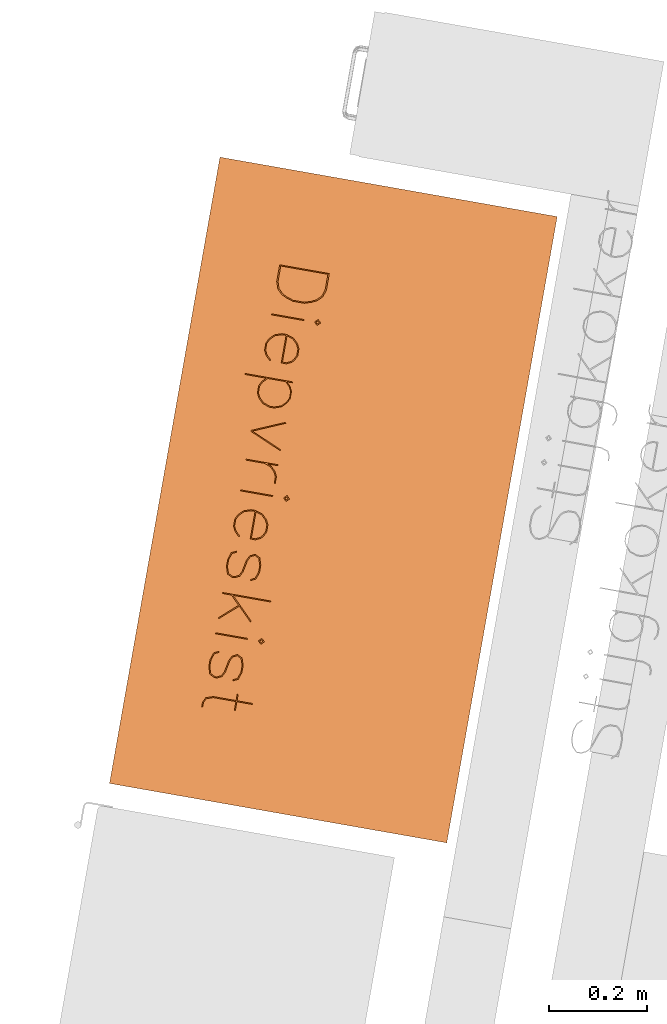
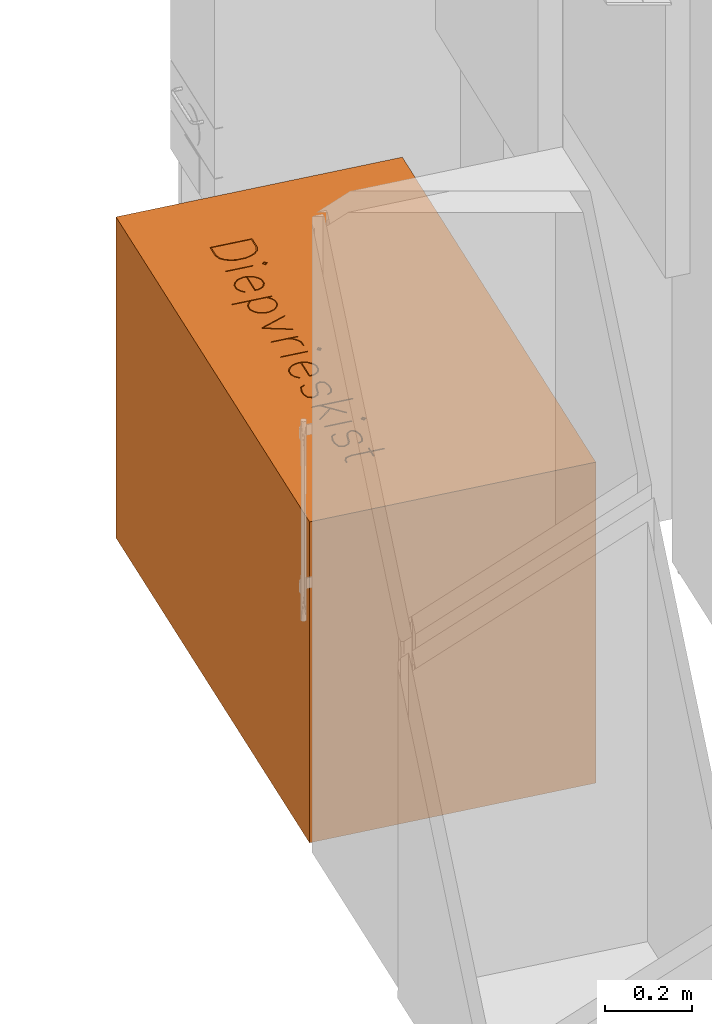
# One storey, part 40 of 43: 1 proxy.
"""IFC2X3 building model written with IfcOpenShell, lengths in metres."""

from ifc_helpers import new_model, entity, si_unit, converted_unit, derived_unit, direction, frame, origin, place, context, subcontext, project, spatial, face_set, surface_model, source, transform, mapped, material, type_object, type_shapes, element, save


model = new_model("IFC2X3")

# Units and contexts
model_context = context("Model", 3, precision=1e-05, world=origin(), true_north=direction((6.12303176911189e-17, 1.0)))
body_context = subcontext(model_context, "Body", "Model", "MODEL_VIEW")
ifc_project = project(units=[si_unit("LENGTHUNIT", "METRE"), si_unit("AREAUNIT", "SQUARE_METRE"), si_unit("VOLUMEUNIT", "CUBIC_METRE"), converted_unit("PLANEANGLEUNIT", "DEGREE", entity("IfcRatioMeasure", 0.0174532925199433), si_unit("PLANEANGLEUNIT", "RADIAN"), dimensions=[0, 0, 0, 0, 0, 0, 0]), si_unit("MASSUNIT", "GRAM", prefix="KILO"), derived_unit("MASSDENSITYUNIT", [(si_unit("MASSUNIT", "GRAM", prefix="KILO"), 1), (si_unit("LENGTHUNIT", "METRE"), -3)]), derived_unit("MOMENTOFINERTIAUNIT", [(si_unit("LENGTHUNIT", "METRE"), 4)]), si_unit("TIMEUNIT", "SECOND"), si_unit("FREQUENCYUNIT", "HERTZ"), si_unit("THERMODYNAMICTEMPERATUREUNIT", "DEGREE_CELSIUS"), derived_unit("THERMALTRANSMITTANCEUNIT", [(si_unit("MASSUNIT", "GRAM", prefix="KILO"), 1), (si_unit("THERMODYNAMICTEMPERATUREUNIT", "KELVIN"), -1), (si_unit("TIMEUNIT", "SECOND"), -3)]), derived_unit("VOLUMETRICFLOWRATEUNIT", [(si_unit("LENGTHUNIT", "METRE"), 3), (si_unit("TIMEUNIT", "SECOND"), -1)]), si_unit("ELECTRICCURRENTUNIT", "AMPERE"), si_unit("ELECTRICVOLTAGEUNIT", "VOLT"), si_unit("POWERUNIT", "WATT"), si_unit("FORCEUNIT", "NEWTON", prefix="KILO"), si_unit("ILLUMINANCEUNIT", "LUX"), si_unit("LUMINOUSFLUXUNIT", "LUMEN"), si_unit("LUMINOUSINTENSITYUNIT", "CANDELA"), derived_unit("USERDEFINED", [(si_unit("MASSUNIT", "GRAM", prefix="KILO"), -1), (si_unit("LENGTHUNIT", "METRE"), -2), (si_unit("TIMEUNIT", "SECOND"), 3), (si_unit("LUMINOUSFLUXUNIT", "LUMEN"), 1)]), derived_unit("LINEARVELOCITYUNIT", [(si_unit("LENGTHUNIT", "METRE"), 1), (si_unit("TIMEUNIT", "SECOND"), -1)]), si_unit("PRESSUREUNIT", "PASCAL"), derived_unit("USERDEFINED", [(si_unit("LENGTHUNIT", "METRE"), -2), (si_unit("MASSUNIT", "GRAM", prefix="KILO"), 1), (si_unit("TIMEUNIT", "SECOND"), -2)]), derived_unit("LINEARFORCEUNIT", [(si_unit("MASSUNIT", "GRAM", prefix="KILO"), 1), (si_unit("LENGTHUNIT", "METRE"), 1), (si_unit("TIMEUNIT", "SECOND"), -2), (si_unit("LENGTHUNIT", "METRE"), -1)]), derived_unit("PLANARFORCEUNIT", [(si_unit("MASSUNIT", "GRAM", prefix="KILO"), 1), (si_unit("LENGTHUNIT", "METRE"), 1), (si_unit("TIMEUNIT", "SECOND"), -2), (si_unit("LENGTHUNIT", "METRE"), -2)])], contexts=[model_context])

# Site, building, storey
site_placement = place(None, origin())
site = spatial("IfcSite", under=ifc_project, at=site_placement, Name="Default", CompositionType="ELEMENT")
building_placement = place(site_placement, origin())
building = spatial("IfcBuilding", under=site, at=building_placement, CompositionType="ELEMENT")
storey_placement = place(building_placement, frame((0.0, 0.0, 3.0)))
storey = spatial("IfcBuildingStorey", under=building, at=storey_placement, Name="01 OG", CompositionType="ELEMENT", Elevation=3.0)

# Proxy
ifc_material = material(Name="dh_Stellfläche dh")
building_element_proxy_type = type_object("IfcBuildingElementProxyType", Name="dh_Gerät_Stellfläche Bestand:Laborgerät", PredefinedType="NOTDEFINED", material=ifc_material)
shared_shape = source(origin(), body_context, "Body", "SurfaceModel", [
    surface_model("IfcFaceBasedSurfaceModel", [(-0.390570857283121, -0.516984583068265, 0.905000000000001), (-0.385655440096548, -0.502263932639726, 0.905000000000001), (-0.385655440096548, -0.477917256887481, 0.905000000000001), (-0.390570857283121, -0.463222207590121, 0.905000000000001), (-0.395307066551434, -0.453263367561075, 0.905000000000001), (-0.40526590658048, -0.443381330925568, 0.905000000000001), (-0.41993535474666, -0.438414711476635, 0.905000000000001), (-0.454471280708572, -0.438414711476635, 0.905000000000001), (-0.454471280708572, -0.541638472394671, 0.905000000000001), (-0.41993535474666, -0.541638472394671, 0.905000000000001), (-0.40526590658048, -0.536799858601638, 0.905000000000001), (-0.395307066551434, -0.526917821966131, 0.905000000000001), (-0.392439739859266, -0.515755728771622, 0.905000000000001), (-0.397227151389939, -0.524997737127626, 0.905000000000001), (-0.406315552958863, -0.534290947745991, 0.905000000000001), (-0.42019136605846, -0.538873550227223, 0.905000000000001), (-0.452346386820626, -0.538873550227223, 0.905000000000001), (-0.452346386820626, -0.441128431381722, 0.905000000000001), (-0.42019136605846, -0.441128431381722, 0.905000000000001), (-0.406315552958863, -0.445711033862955, 0.905000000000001), (-0.397227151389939, -0.455004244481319, 0.905000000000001), (-0.392439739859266, -0.464246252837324, 0.905000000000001), (-0.387857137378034, -0.478250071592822, 0.905000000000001), (-0.387857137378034, -0.501751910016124, 0.905000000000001), (-0.352885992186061, -0.539999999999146, 0.905000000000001), (-0.350761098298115, -0.539999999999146, 0.905000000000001), (-0.350761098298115, -0.473334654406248, 0.905000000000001), (-0.352885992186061, -0.473334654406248, 0.905000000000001), (-0.257649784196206, -0.527199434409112, 0.905000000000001), (-0.259313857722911, -0.525535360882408, 0.905000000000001), (-0.268683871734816, -0.534982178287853, 0.905000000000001), (-0.27777227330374, -0.539564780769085, 0.905000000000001), (-0.291520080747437, -0.539564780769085, 0.905000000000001), (-0.300634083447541, -0.534982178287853, 0.905000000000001), (-0.309927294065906, -0.525791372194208, 0.905000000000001), (-0.314509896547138, -0.511889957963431, 0.905000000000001), (-0.314509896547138, -0.503646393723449, 0.905000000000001), (-0.257393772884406, -0.503646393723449, 0.905000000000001), (-0.257393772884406, -0.49271471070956, 0.905000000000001), (-0.262309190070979, -0.482730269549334, 0.905000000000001), (-0.267352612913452, -0.47768684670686, 0.905000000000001), (-0.277260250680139, -0.472822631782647, 0.905000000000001), (-0.292057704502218, -0.472822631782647, 0.905000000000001), (-0.302016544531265, -0.47768684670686, 0.905000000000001), (-0.311770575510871, -0.487671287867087, 0.905000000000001), (-0.316685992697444, -0.502366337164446, 0.905000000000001), (-0.316685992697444, -0.512222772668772, 0.905000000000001), (-0.311770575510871, -0.526917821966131, 0.905000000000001), (-0.302016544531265, -0.536851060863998, 0.905000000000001), (-0.292057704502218, -0.541638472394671, 0.905000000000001), (-0.277260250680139, -0.541638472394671, 0.905000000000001), (-0.267352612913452, -0.536851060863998, 0.905000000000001), (-0.314100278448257, -0.501444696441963, 0.905000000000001), (-0.309927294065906, -0.48874653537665, 0.905000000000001), (-0.300634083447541, -0.479658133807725, 0.905000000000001), (-0.291520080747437, -0.474998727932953, 0.905000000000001), (-0.27777227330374, -0.474998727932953, 0.905000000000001), (-0.268683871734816, -0.479658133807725, 0.905000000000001), (-0.264178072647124, -0.484163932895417, 0.905000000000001), (-0.259595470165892, -0.493277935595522, 0.905000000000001), (-0.259595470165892, -0.501444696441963, 0.905000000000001), (-0.22132177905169, -0.47376987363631, 0.905000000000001), (-0.223446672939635, -0.47376987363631, 0.905000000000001), (-0.223446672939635, -0.572769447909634, 0.905000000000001), (-0.22132177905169, -0.572769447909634, 0.905000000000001), (-0.22132177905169, -0.528300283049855, 0.905000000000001), (-0.213539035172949, -0.536211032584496, 0.905000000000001), (-0.203580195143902, -0.540972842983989, 0.905000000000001), (-0.188782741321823, -0.540972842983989, 0.905000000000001), (-0.178875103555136, -0.536211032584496, 0.905000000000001), (-0.16904426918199, -0.52632899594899, 0.905000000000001), (-0.164128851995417, -0.511787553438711, 0.905000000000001), (-0.164128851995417, -0.502033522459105, 0.905000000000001), (-0.16904426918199, -0.487492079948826, 0.905000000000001), (-0.178875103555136, -0.4776356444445, 0.905000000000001), (-0.188782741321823, -0.472822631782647, 0.905000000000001), (-0.203580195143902, -0.472822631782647, 0.905000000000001), (-0.213539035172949, -0.47761004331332, 0.905000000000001), (-0.22132177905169, -0.485443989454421, 0.905000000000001), (-0.22132177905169, -0.488004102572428, 0.905000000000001), (-0.212156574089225, -0.479043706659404, 0.905000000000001), (-0.203042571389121, -0.474384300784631, 0.905000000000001), (-0.189294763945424, -0.474384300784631, 0.905000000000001), (-0.1802063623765, -0.479043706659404, 0.905000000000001), (-0.170989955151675, -0.488132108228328, 0.905000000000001), (-0.166330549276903, -0.502007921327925, 0.905000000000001), (-0.166330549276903, -0.51124992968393, 0.905000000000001), (-0.170989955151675, -0.525125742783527, 0.905000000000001), (-0.1802063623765, -0.534290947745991, 0.905000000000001), (-0.189294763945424, -0.538873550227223, 0.905000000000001), (-0.203042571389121, -0.538873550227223, 0.905000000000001), (-0.212156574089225, -0.534290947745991, 0.905000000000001), (-0.22132177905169, -0.525253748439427, 0.905000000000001), (-0.0804387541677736, -0.474461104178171, 0.905000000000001), (-0.0823076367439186, -0.473667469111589, 0.905000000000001), (-0.109931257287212, -0.537260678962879, 0.905000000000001), (-0.137554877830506, -0.472822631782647, 0.905000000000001), (-0.139474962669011, -0.473616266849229, 0.905000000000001), (-0.111108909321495, -0.539999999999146, 0.905000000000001), (-0.108728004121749, -0.539999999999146, 0.905000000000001), (-0.0514070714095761, -0.539999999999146, 0.905000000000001), (-0.0492821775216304, -0.539999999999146, 0.905000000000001), (-0.0492821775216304, -0.502340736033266, 0.905000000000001), (-0.044622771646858, -0.488567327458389, 0.905000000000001), (-0.0353807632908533, -0.479530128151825, 0.905000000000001), (-0.0262411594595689, -0.474921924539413, 0.905000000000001), (-0.0122117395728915, -0.474921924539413, 0.905000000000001), (-0.0122117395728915, -0.472822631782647, 0.905000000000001), (-0.0268299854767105, -0.472822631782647, 0.905000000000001), (-0.0367120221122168, -0.4776356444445, 0.905000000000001), (-0.0465428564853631, -0.487517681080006, 0.905000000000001), (-0.0492821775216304, -0.495607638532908, 0.905000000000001), (-0.0492821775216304, -0.473693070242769, 0.905000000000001), (-0.0514070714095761, -0.473693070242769, 0.905000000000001), (0.0124933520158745, -0.539999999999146, 0.905000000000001), (0.0146182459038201, -0.539999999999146, 0.905000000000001), (0.0146182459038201, -0.473334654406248, 0.905000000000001), (0.0124933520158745, -0.473334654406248, 0.905000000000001), (0.107729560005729, -0.527199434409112, 0.905000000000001), (0.106065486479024, -0.525535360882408, 0.905000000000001), (0.0966954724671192, -0.534982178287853, 0.905000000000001), (0.0876070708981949, -0.539564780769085, 0.905000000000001), (0.0738592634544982, -0.539564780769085, 0.905000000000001), (0.0647452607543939, -0.534982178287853, 0.905000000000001), (0.0554520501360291, -0.525791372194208, 0.905000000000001), (0.0508694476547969, -0.511889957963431, 0.905000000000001), (0.0508694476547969, -0.503646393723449, 0.905000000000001), (0.107985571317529, -0.503646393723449, 0.905000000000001), (0.107985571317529, -0.49271471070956, 0.905000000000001), (0.103070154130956, -0.482730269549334, 0.905000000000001), (0.0980267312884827, -0.47768684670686, 0.905000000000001), (0.0881190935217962, -0.472822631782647, 0.905000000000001), (0.0733216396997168, -0.472822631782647, 0.905000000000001), (0.0633627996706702, -0.47768684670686, 0.905000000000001), (0.0536087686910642, -0.487671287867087, 0.905000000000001), (0.048693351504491, -0.502366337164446, 0.905000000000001), (0.048693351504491, -0.512222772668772, 0.905000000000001), (0.0536087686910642, -0.526917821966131, 0.905000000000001), (0.0633627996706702, -0.536851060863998, 0.905000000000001), (0.0733216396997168, -0.541638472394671, 0.905000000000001), (0.0881190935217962, -0.541638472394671, 0.905000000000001), (0.0980267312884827, -0.536851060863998, 0.905000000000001), (0.0512790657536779, -0.501444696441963, 0.905000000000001), (0.0554520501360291, -0.48874653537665, 0.905000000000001), (0.0647452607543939, -0.479658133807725, 0.905000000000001), (0.0738592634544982, -0.474998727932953, 0.905000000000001), (0.0876070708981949, -0.474998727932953, 0.905000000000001), (0.0966954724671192, -0.479658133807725, 0.905000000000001), (0.101201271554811, -0.484163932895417, 0.905000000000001), (0.105783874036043, -0.493277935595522, 0.905000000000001), (0.105783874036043, -0.501444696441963, 0.905000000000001), (0.139218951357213, -0.525791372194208, 0.905000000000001), (0.137298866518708, -0.526917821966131, 0.905000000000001), (0.142214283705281, -0.536851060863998, 0.905000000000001), (0.15713974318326, -0.541638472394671, 0.905000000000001), (0.171681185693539, -0.541638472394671, 0.905000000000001), (0.186709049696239, -0.536851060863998, 0.905000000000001), (0.191675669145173, -0.526661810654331, 0.905000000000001), (0.191675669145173, -0.521336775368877, 0.905000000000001), (0.186709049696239, -0.511224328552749, 0.905000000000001), (0.176750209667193, -0.506155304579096, 0.905000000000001), (0.152966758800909, -0.501444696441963, 0.905000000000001), (0.143801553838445, -0.496913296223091, 0.905000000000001), (0.139474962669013, -0.488208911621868, 0.905000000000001), (0.143801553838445, -0.479606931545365, 0.905000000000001), (0.157421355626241, -0.474947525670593, 0.905000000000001), (0.171425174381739, -0.474947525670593, 0.905000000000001), (0.185044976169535, -0.479606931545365, 0.905000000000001), (0.189678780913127, -0.488720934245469, 0.905000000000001), (0.191547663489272, -0.487671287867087, 0.905000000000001), (0.186709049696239, -0.47768684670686, 0.905000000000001), (0.171681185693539, -0.472822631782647, 0.905000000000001), (0.15713974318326, -0.472822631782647, 0.905000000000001), (0.142214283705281, -0.47768684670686, 0.905000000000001), (0.137017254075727, -0.488208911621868, 0.905000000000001), (0.142214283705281, -0.498577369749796, 0.905000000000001), (0.152096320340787, -0.503646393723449, 0.905000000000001), (0.175930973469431, -0.508357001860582, 0.905000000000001), (0.185044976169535, -0.512888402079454, 0.905000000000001), (0.189550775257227, -0.521874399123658, 0.905000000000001), (0.189550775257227, -0.526072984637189, 0.905000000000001), (0.185044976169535, -0.534982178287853, 0.905000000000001), (0.171425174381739, -0.539564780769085, 0.905000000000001), (0.157421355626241, -0.539564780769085, 0.905000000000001), (0.143801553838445, -0.534982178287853, 0.905000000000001), (0.225494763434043, -0.539999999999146, 0.905000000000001), (0.227619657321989, -0.539999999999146, 0.905000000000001), (0.227619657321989, -0.521336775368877, 0.905000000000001), (0.245617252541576, -0.503543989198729, 0.905000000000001), (0.278105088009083, -0.539999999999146, 0.905000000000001), (0.279769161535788, -0.538745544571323, 0.905000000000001), (0.24707651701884, -0.501495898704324, 0.905000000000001), (0.274981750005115, -0.47374427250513, 0.905000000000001), (0.273394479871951, -0.472157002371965, 0.905000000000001), (0.227619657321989, -0.517957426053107, 0.905000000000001), (0.227619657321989, -0.44005318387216, 0.905000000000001), (0.225494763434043, -0.44005318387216, 0.905000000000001), (0.309056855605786, -0.539999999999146, 0.905000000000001), (0.311181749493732, -0.539999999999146, 0.905000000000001), (0.311181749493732, -0.473334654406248, 0.905000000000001), (0.309056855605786, -0.473334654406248, 0.905000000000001), (0.347304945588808, -0.525791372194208, 0.905000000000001), (0.345384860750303, -0.526917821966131, 0.905000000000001), (0.350300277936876, -0.536851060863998, 0.905000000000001), (0.365225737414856, -0.541638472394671, 0.905000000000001), (0.379767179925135, -0.541638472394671, 0.905000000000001), (0.394795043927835, -0.536851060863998, 0.905000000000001), (0.399761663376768, -0.526661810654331, 0.905000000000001), (0.399761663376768, -0.521336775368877, 0.905000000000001), (0.394795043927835, -0.511224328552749, 0.905000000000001), (0.384836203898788, -0.506155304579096, 0.905000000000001), (0.361052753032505, -0.501444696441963, 0.905000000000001), (0.35188754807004, -0.496913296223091, 0.905000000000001), (0.347560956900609, -0.488208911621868, 0.905000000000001), (0.35188754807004, -0.479606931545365, 0.905000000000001), (0.365507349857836, -0.474947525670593, 0.905000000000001), (0.379511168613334, -0.474947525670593, 0.905000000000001), (0.39313097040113, -0.479606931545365, 0.905000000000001), (0.397764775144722, -0.488720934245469, 0.905000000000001), (0.399633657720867, -0.487671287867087, 0.905000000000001), (0.394795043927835, -0.47768684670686, 0.905000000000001), (0.379767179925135, -0.472822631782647, 0.905000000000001), (0.365225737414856, -0.472822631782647, 0.905000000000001), (0.350300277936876, -0.47768684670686, 0.905000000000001), (0.345103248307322, -0.488208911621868, 0.905000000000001), (0.350300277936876, -0.498577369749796, 0.905000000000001), (0.360182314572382, -0.503646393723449, 0.905000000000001), (0.384016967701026, -0.508357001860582, 0.905000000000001), (0.39313097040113, -0.512888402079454, 0.905000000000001), (0.397636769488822, -0.521874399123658, 0.905000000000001), (0.397636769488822, -0.526072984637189, 0.905000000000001), (0.39313097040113, -0.534982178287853, 0.905000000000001), (0.379511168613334, -0.539564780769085, 0.905000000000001), (0.365507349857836, -0.539564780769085, 0.905000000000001), (0.35188754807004, -0.534982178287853, 0.905000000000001), (0.463201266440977, -0.541638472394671, 0.905000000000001), (0.463201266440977, -0.539564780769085, 0.905000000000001), (0.453984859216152, -0.539564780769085, 0.905000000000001), (0.445152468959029, -0.535084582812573, 0.905000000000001), (0.440493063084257, -0.521387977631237, 0.905000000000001), (0.440493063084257, -0.474665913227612, 0.905000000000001), (0.458490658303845, -0.474665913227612, 0.905000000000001), (0.458490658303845, -0.472541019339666, 0.905000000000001), (0.440493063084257, -0.472541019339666, 0.905000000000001), (0.440493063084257, -0.44005318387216, 0.905000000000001), (0.438316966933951, -0.44005318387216, 0.905000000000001), (0.438316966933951, -0.472541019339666, 0.905000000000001), (0.425157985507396, -0.472541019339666, 0.905000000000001), (0.425157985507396, -0.474665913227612, 0.905000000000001), (0.438316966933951, -0.474665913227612, 0.905000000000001), (0.438316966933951, -0.521643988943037, 0.905000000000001), (0.443232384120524, -0.536697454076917, 0.905000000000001), (0.453447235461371, -0.541638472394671, 0.905000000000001), (0.310132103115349, -0.450882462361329, 0.905000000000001), (0.316378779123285, -0.444661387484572, 0.905000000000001), (0.310132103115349, -0.438414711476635, 0.905000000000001), (0.303885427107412, -0.444661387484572, 0.905000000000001), (0.310132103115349, -0.448040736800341, 0.905000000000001), (0.30688075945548, -0.444789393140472, 0.905000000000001), (0.310132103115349, -0.441512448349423, 0.905000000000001), (0.313383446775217, -0.444789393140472, 0.905000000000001), (0.0135685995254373, -0.450882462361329, 0.905000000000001), (0.019815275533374, -0.444661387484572, 0.905000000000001), (0.0135685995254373, -0.438414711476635, 0.905000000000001), (0.00732192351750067, -0.444661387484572, 0.905000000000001), (0.0135685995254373, -0.448040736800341, 0.905000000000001), (0.0103172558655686, -0.444789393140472, 0.905000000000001), (0.0135685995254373, -0.441512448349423, 0.905000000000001), (0.016819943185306, -0.444789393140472, 0.905000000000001), (-0.351810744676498, -0.450882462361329, 0.905000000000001), (-0.345564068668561, -0.444661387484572, 0.905000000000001), (-0.351810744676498, -0.438414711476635, 0.905000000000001), (-0.358057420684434, -0.444661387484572, 0.905000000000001), (-0.351810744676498, -0.448040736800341, 0.905000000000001), (-0.355062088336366, -0.444789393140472, 0.905000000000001), (-0.351810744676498, -0.441512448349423, 0.905000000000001), (-0.348559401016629, -0.444789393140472, 0.905000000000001), (0.650000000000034, 0.0, 0.9), (0.650000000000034, -0.700000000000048, 0.9), (-0.650000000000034, -0.700000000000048, 0.9), (-0.650000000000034, 0.0, 0.9), (0.650000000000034, 0.0, 0.0), (0.650000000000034, -0.700000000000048, 0.0), (-0.650000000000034, -0.700000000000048, 0.0), (-0.650000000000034, 0.0, 0.0)], [face_set([[[0, 1, 2, 3, 4, 5, 6, 7, 8, 9, 10, 11], [12, 13, 14, 15, 16, 17, 18, 19, 20, 21, 22, 23]]]), face_set([[[24, 25, 26, 27]]]), face_set([[[28, 29, 30, 31, 32, 33, 34, 35, 36, 37, 38, 39, 40, 41, 42, 43, 44, 45, 46, 47, 48, 49, 50, 51], [52, 53, 54, 55, 56, 57, 58, 59, 60]]]), face_set([[[61, 62, 63, 64, 65, 66, 67, 68, 69, 70, 71, 72, 73, 74, 75, 76, 77, 78], [79, 80, 81, 82, 83, 84, 85, 86, 87, 88, 89, 90, 91, 92]]]), face_set([[[93, 94, 95, 96, 97, 98, 99]]]), face_set([[[100, 101, 102, 103, 104, 105, 106, 107, 108, 109, 110, 111, 112, 113]]]), face_set([[[114, 115, 116, 117]]]), face_set([[[118, 119, 120, 121, 122, 123, 124, 125, 126, 127, 128, 129, 130, 131, 132, 133, 134, 135, 136, 137, 138, 139, 140, 141], [142, 143, 144, 145, 146, 147, 148, 149, 150]]]), face_set([[[151, 152, 153, 154, 155, 156, 157, 158, 159, 160, 161, 162, 163, 164, 165, 166, 167, 168, 169, 170, 171, 172, 173, 174, 175, 176, 177, 178, 179, 180, 181, 182, 183, 184]]]), face_set([[[185, 186, 187, 188, 189, 190, 191, 192, 193, 194, 195, 196]]]), face_set([[[197, 198, 199, 200]]]), face_set([[[201, 202, 203, 204, 205, 206, 207, 208, 209, 210, 211, 212, 213, 214, 215, 216, 217, 218, 219, 220, 221, 222, 223, 224, 225, 226, 227, 228, 229, 230, 231, 232, 233, 234]]]), face_set([[[235, 236, 237, 238, 239, 240, 241, 242, 243, 244, 245, 246, 247, 248, 249, 250, 251, 252]]]), face_set([[[253, 254, 255, 256], [257, 258, 259, 260]]]), face_set([[[261, 262, 263, 264], [265, 266, 267, 268]]]), face_set([[[269, 270, 271, 272], [273, 274, 275, 276]]]), face_set([[[277, 278, 279, 280]], [[281, 282, 283, 284]], [[280, 277, 281, 284]], [[279, 280, 284, 283]], [[278, 282, 283, 279]], [[277, 278, 282, 281]]])]),
])
type_shapes(building_element_proxy_type, [shared_shape])
proxy_placement = place(storey_placement, frame((26.0922707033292, 11.2021711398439, 0.0), z_axis=(0.0, 0.0, 1.0), x_axis=(-0.173648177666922, -0.98480775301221, 0.0)))
element("IfcBuildingElementProxy", 1, at=proxy_placement, inside=storey, type_object=building_element_proxy_type, material=ifc_material, Name="dh_Gerät_Stellfläche Bestand:Laborgerät", ObjectType="dh_Gerät_Stellfläche Bestand:Laborgerät", context=body_context, shape_type="MappedRepresentation", body=[
    mapped(shared_shape, transform((0.0, 0.0, 0.0), scale=1.0)),
])

save(model, "model.ifc")
